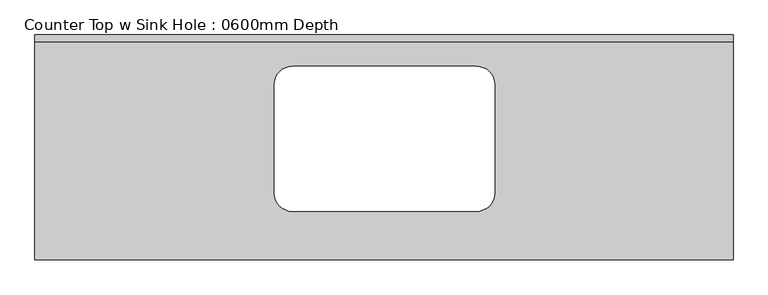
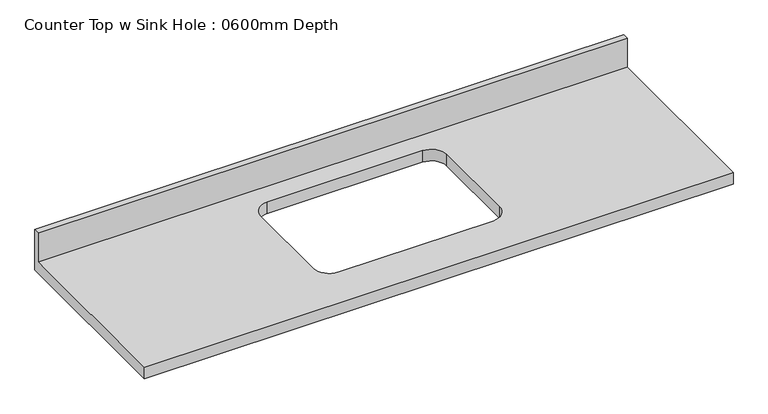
"""IFC4 building model written with IfcOpenShell, lengths in millimetres: furniture geometry, Counter Top w Sink Hole : 0600mm Depth."""

from ifc_helpers import new_model, si_unit, frame, origin, place, context, project, spatial, polyline, circle_curve, source, transform, mapped, element, save
from ifc_brep_helpers import plane_surface, revolved_surface, advanced_brep


def counter_top_w_sink_hole_0600mm_depth_000942c2(model_context):
    return source(origin(), model_context, "Body", "AdvancedBrep", [
        advanced_brep(
        [(-1200.4622951, -624.68125, 900.1125), (740.454049, -624.68125, 900.1125), (740.454049, -19.05, 900.1125), (-1200.4622951, -19.05, 900.1125), (-484.3599333, -87.3125, 900.1125), (26.8150667, -87.3125, 900.1125), (77.6150667, -138.1125, 900.1125), (77.6150667, -439.7375, 900.1125), (26.8150667, -490.5375, 900.1125), (-484.3599333, -490.5375, 900.1125), (-535.1599333, -439.7375, 900.1125), (-535.1599333, -138.1125, 900.1125), (740.454049, 0.0, 860.425), (740.454049, -624.68125, 860.425), (-1200.4622951, -624.68125, 860.425), (-1200.4622951, 0.0, 860.425), (26.8150667, -87.3125, 860.425), (-484.3599333, -87.3125, 860.425), (-535.1599333, -138.1125, 860.425), (-535.1599333, -439.7375, 860.425), (-484.3599333, -490.5375, 860.425), (26.8150667, -490.5375, 860.425), (77.6150667, -439.7375, 860.425), (77.6150667, -138.1125, 860.425), (-1200.4622951, 0.0, 1001.7125), (740.454049, 0.0, 1001.7125), (-1200.4622951, -19.05, 1001.7125), (740.454049, -19.05, 1001.7125)],
        [
            (0, 1),
            (1, 2),
            (2, 3),
            (3, 0),
            (4, 5),
            (5, 6, circle_curve(frame((26.8150667, -138.1125, 900.1125), z_axis=(0.0, 0.0, -1.0), x_axis=(1.0, 0.0, 0.0)), 50.8)),
            (6, 7),
            (7, 8, circle_curve(frame((26.8150667, -439.7375, 900.1125), z_axis=(0.0, 0.0, -1.0), x_axis=(1.0, 0.0, 0.0)), 50.8)),
            (8, 9),
            (9, 10, circle_curve(frame((-484.3599333, -439.7375, 900.1125), z_axis=(0.0, 0.0, -1.0), x_axis=(1.0, 0.0, 0.0)), 50.8)),
            (10, 11),
            (11, 4, circle_curve(frame((-484.3599333, -138.1125, 900.1125), z_axis=(0.0, 0.0, -1.0), x_axis=(1.0, 0.0, 0.0)), 50.8)),
            (12, 13),
            (13, 14),
            (14, 15),
            (15, 12),
            (16, 17),
            (17, 18, circle_curve(frame((-484.3599333, -138.1125, 860.425), z_axis=(0.0, 0.0, 1.0), x_axis=(1.0, 0.0, 0.0)), 50.8)),
            (18, 19),
            (19, 20, circle_curve(frame((-484.3599333, -439.7375, 860.425), z_axis=(0.0, 0.0, 1.0), x_axis=(1.0, 0.0, 0.0)), 50.8)),
            (20, 21),
            (21, 22, circle_curve(frame((26.8150667, -439.7375, 860.425), z_axis=(0.0, 0.0, 1.0), x_axis=(1.0, 0.0, 0.0)), 50.8)),
            (22, 23),
            (23, 16, circle_curve(frame((26.8150667, -138.1125, 860.425), z_axis=(0.0, 0.0, 1.0), x_axis=(1.0, 0.0, 0.0)), 50.8)),
            (15, 24),
            (24, 25),
            (25, 12),
            (14, 0),
            (3, 26),
            (26, 24),
            (13, 1),
            (25, 27),
            (27, 2),
            (26, 27),
            (4, 17),
            (16, 5),
            (11, 18),
            (10, 19),
            (9, 20),
            (8, 21),
            (7, 22),
            (6, 23),
        ],
        [
            plane_surface(frame((-1200.4622951, 0.0, 900.1125), z_axis=(0.0, 0.0, 1.0), x_axis=(-1.0, 0.0, 0.0))),
            plane_surface(frame((-1200.4622951, 0.0, 860.425), z_axis=(0.0, 0.0, -1.0), x_axis=(1.0, 0.0, 0.0))),
            plane_surface(frame((740.454049, 0.0, 900.1125), z_axis=(0.0, 1.0, 0.0), x_axis=(0.0, 0.0, -1.0))),
            plane_surface(frame((-1200.4622951, 0.0, 900.1125), z_axis=(-1.0, 0.0, 0.0), x_axis=(0.0, 0.0, -1.0))),
            plane_surface(frame((-1200.4622951, -624.68125, 900.1125), z_axis=(0.0, -1.0, 0.0), x_axis=(0.0, 0.0, -1.0))),
            plane_surface(frame((740.454049, -624.68125, 900.1125), z_axis=(1.0, 0.0, 0.0), x_axis=(0.0, 0.0, -1.0))),
            plane_surface(frame((-1200.4622951, 0.0, 1001.7125), z_axis=(0.0, 0.0, 1.0), x_axis=(0.0, -1.0, 0.0))),
            plane_surface(frame((-1200.4622951, -19.05, 1001.7125), z_axis=(0.0, -1.0, 0.0), x_axis=(0.0, 0.0, -1.0))),
            plane_surface(frame((26.8150667, -87.3125, 900.1125), z_axis=(0.0, -1.0, 0.0), x_axis=(0.0, 0.0, -1.0))),
            revolved_surface(polyline([(-433.5599333, -138.1125, 900.1125), (-433.5599333, -138.1125, 860.425)]), (-484.3599333, -138.1125, 860.425), (0.0, 0.0, 1.0)),
            plane_surface(frame((-535.1599333, -138.1125, 900.1125), z_axis=(1.0, 0.0, 0.0), x_axis=(0.0, 0.0, -1.0))),
            revolved_surface(polyline([(-433.5599333, -439.7375, 900.1125), (-433.5599333, -439.7375, 860.425)]), (-484.3599333, -439.7375, 860.425), (0.0, 0.0, 1.0)),
            plane_surface(frame((-484.3599333, -490.5375, 900.1125), z_axis=(0.0, 1.0, 0.0), x_axis=(0.0, 0.0, -1.0))),
            revolved_surface(polyline([(77.6150667, -439.7375, 900.1125), (77.6150667, -439.7375, 860.425)]), (26.8150667, -439.7375, 860.425), (0.0, 0.0, 1.0)),
            plane_surface(frame((77.6150667, -439.7375, 900.1125), z_axis=(-1.0, 0.0, 0.0), x_axis=(0.0, 0.0, -1.0))),
            revolved_surface(polyline([(77.6150667, -138.1125, 900.1125), (77.6150667, -138.1125, 860.425)]), (26.8150667, -138.1125, 860.425), (0.0, 0.0, 1.0)),
        ],
        [
            (0, [[1, 2, 3, 4], [5, 6, 7, 8, 9, 10, 11, 12]]),
            (1, [[13, 14, 15, 16], [17, 18, 19, 20, 21, 22, 23, 24]]),
            (2, [[-16, 25, 26, 27]]),
            (3, [[-15, 28, -4, 29, 30, -25]]),
            (4, [[-1, -28, -14, 31]]),
            (5, [[-13, -27, 32, 33, -2, -31]]),
            (6, [[-30, 34, -32, -26]]),
            (7, [[-34, -29, -3, -33]]),
            (8, [[35, -17, 36, -5]]),
            (9, [[-35, -12, 37, -18]]),
            (10, [[-37, -11, 38, -19]]),
            (11, [[-38, -10, 39, -20]]),
            (12, [[-39, -9, 40, -21]]),
            (13, [[-40, -8, 41, -22]]),
            (14, [[-41, -7, 42, -23]]),
            (15, [[-36, -24, -42, -6]]),
        ],
    ),
    ])


if __name__ == "__main__":
    model = new_model("IFC4")
    model_context = context("Model", 3, world=origin())
    ifc_project = project(units=[si_unit("LENGTHUNIT", "METRE", prefix="MILLI")], contexts=[model_context])
    site = spatial("IfcSite", under=ifc_project)
    building = spatial("IfcBuilding", under=site)
    placement = place(None, origin())
    counter_top_w_sink_hole_0600mm_depth_shape = counter_top_w_sink_hole_0600mm_depth_000942c2(model_context)
    element("IfcFurniture", 1, ObjectType="Counter Top w Sink Hole : 0600mm Depth", at=placement, inside=building, context=model_context, shape_type="MappedRepresentation", body=[
        mapped(counter_top_w_sink_hole_0600mm_depth_shape, transform((0.0, 0.0, 0.0), x_axis=(1.0, 0.0, 0.0), y_axis=(0.0, 1.0, 0.0), z_axis=(0.0, 0.0, 1.0))),
    ])
    save(model, "model.ifc")
